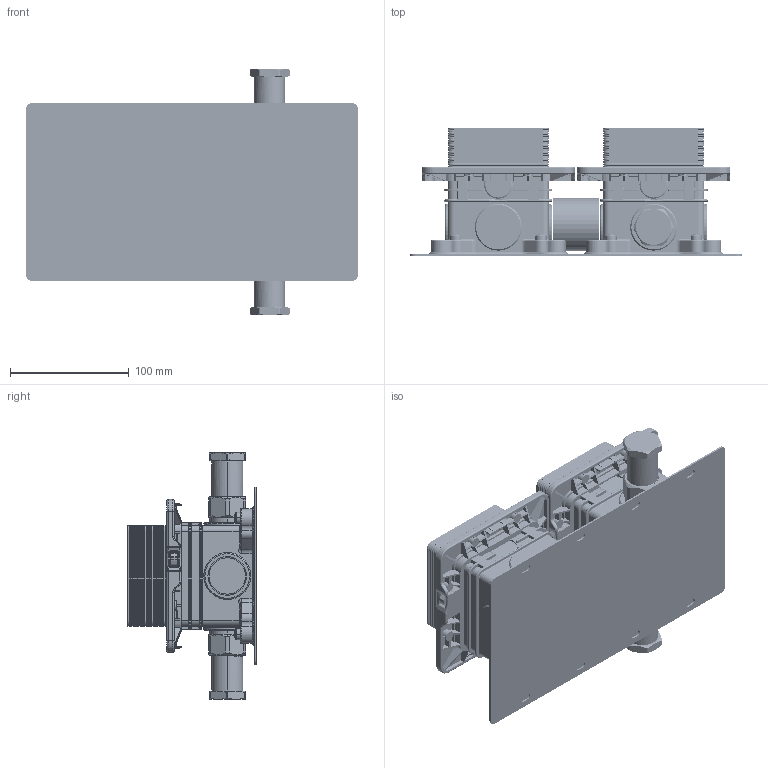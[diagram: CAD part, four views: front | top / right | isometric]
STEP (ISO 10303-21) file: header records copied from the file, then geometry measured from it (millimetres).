
FILE_DESCRIPTION((''),'2;1');
FILE_NAME('01_1-CONSUMER_THERM_B_125288','2025-12-08T10:16:08',('YY993'),(''),'CREO PARAMETRIC BY PTC INC, 2024133','CREO PARAMETRIC BY PTC INC, 2024133','');
FILE_SCHEMA(('CONFIG_CONTROL_DESIGN'));
Products named in the file (1): 01_1-CONSUMER_THERM_B_125288
Bounding box: 280.02 x 108.5 x 208 mm (x, y, z)
Volume: 888249.7 mm3; surface area: 410117.3 mm2
Topology: 2 solids, 2 shells, 5387 faces, 13836 edges, 8306 vertices
Faces by surface type: plane 2394, cylinder 1406, bspline 586, torus 462, cone 455, sphere 80, extrusion 4
Entity records: 216519 total; most frequent: CARTESIAN_POINT 90619, ORIENTED_EDGE 27480, DIRECTION 25039, EDGE_CURVE 13740, AXIS2_PLACEMENT_3D 8885, VERTEX_POINT 8306, VECTOR 7269, LINE 7265
